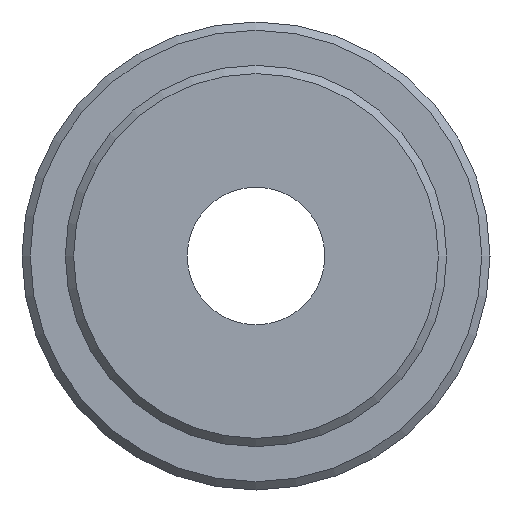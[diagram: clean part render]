
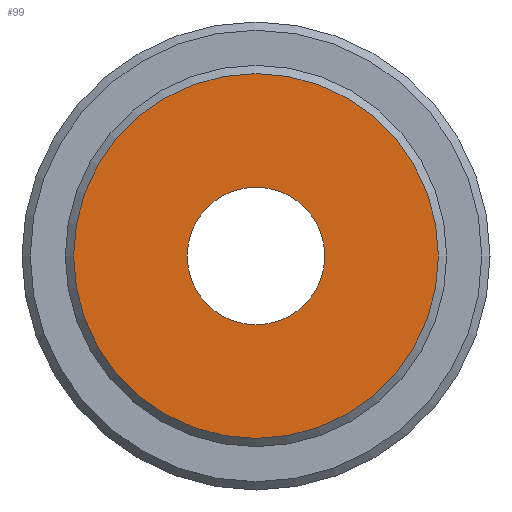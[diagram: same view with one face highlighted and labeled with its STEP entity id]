
A CAD part, left-side view. The second image highlights one B-rep face of the part: STEP entity #99.
In plain terms, the highlighted planar face has unit normal (-1, 0, 0).
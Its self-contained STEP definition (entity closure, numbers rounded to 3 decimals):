
#99=ADVANCED_FACE('',(#226,#227),#228,.T.);
#226=FACE_OUTER_BOUND('',#371,.T.);
#227=FACE_BOUND('',#372,.T.);
#228=PLANE('',#373);
#371=EDGE_LOOP('',(#568));
#372=EDGE_LOOP('',(#569));
#373=AXIS2_PLACEMENT_3D('',#570,#571,#572);
#568=ORIENTED_EDGE('',*,*,#723,.T.);
#569=ORIENTED_EDGE('',*,*,#780,.T.);
#570=CARTESIAN_POINT('',(0.0,3.313,0.));
#571=DIRECTION('',(-1.0,0.0,0.0));
#572=DIRECTION('',(0.0,0.0,1.0));
#723=EDGE_CURVE('',#825,#825,#826,.T.);
#780=EDGE_CURVE('',#916,#916,#917,.T.);
#825=VERTEX_POINT('',#970);
#826=CIRCLE('',#971,6.625);
#916=VERTEX_POINT('',#1183);
#917=CIRCLE('',#1184,2.5);
#970=CARTESIAN_POINT('',(0.0,6.625,0.));
#971=AXIS2_PLACEMENT_3D('',#1337,#1338,#1339);
#1183=CARTESIAN_POINT('',(0.0,2.5,0.));
#1184=AXIS2_PLACEMENT_3D('',#1405,#1406,#1407);
#1337=CARTESIAN_POINT('',(0.0,0.0,0.0));
#1338=DIRECTION('',(-1.0,0.0,0.0));
#1339=DIRECTION('',(0.0,1.0,0.));
#1405=CARTESIAN_POINT('',(0.0,0.0,0.0));
#1406=DIRECTION('',(1.0,0.0,0.0));
#1407=DIRECTION('',(0.0,1.0,0.));
